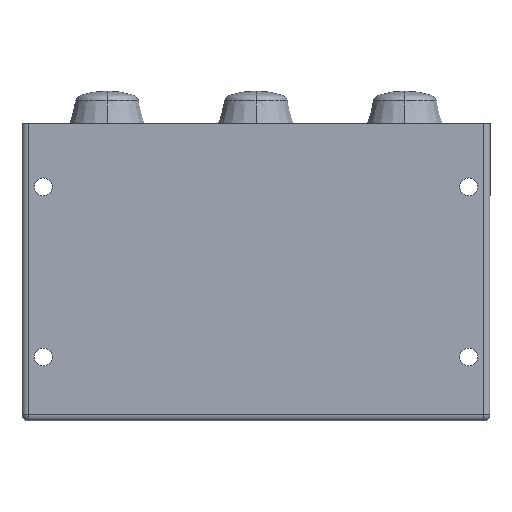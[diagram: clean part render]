
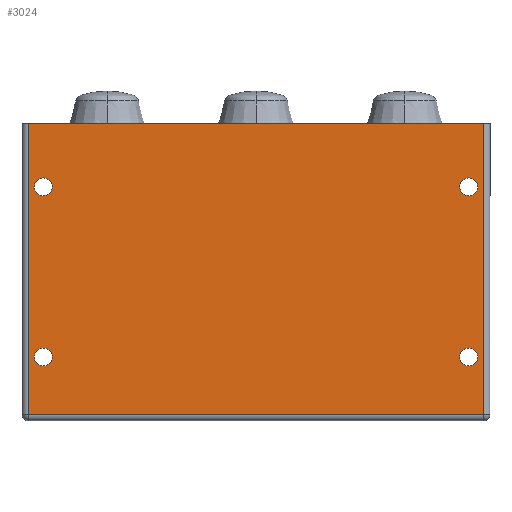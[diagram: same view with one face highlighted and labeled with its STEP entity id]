
A CAD part, front view. The second image highlights one B-rep face of the part: STEP entity #3024.
In plain terms, the highlighted planar face has unit normal (0, -1, 0).
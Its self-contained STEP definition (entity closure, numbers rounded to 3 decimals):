
#78 = EDGE_CURVE ( 'NONE', #910, #1433, #2929, .T. ) ;
#89 = CARTESIAN_POINT ( 'NONE',  ( -50., -15., -9.9 ) ) ;
#158 = FACE_BOUND ( 'NONE', #1120, .T. ) ;
#167 = EDGE_CURVE ( 'NONE', #1433, #910, #989, .T. ) ;
#174 = AXIS2_PLACEMENT_3D ( 'NONE', #3679, #1544, #4014 ) ;
#179 = VERTEX_POINT ( 'NONE', #2054 ) ;
#182 = AXIS2_PLACEMENT_3D ( 'NONE', #2502, #821, #805 ) ;
#260 = FACE_BOUND ( 'NONE', #4183, .T. ) ;
#341 = AXIS2_PLACEMENT_3D ( 'NONE', #3159, #1481, #839 ) ;
#427 = DIRECTION ( 'NONE',  ( 0., 1., 0. ) ) ;
#429 = EDGE_CURVE ( 'NONE', #598, #1924, #2055, .T. ) ;
#447 = CARTESIAN_POINT ( 'NONE',  ( 50., -15., -12. ) ) ;
#463 = EDGE_CURVE ( 'NONE', #179, #1077, #1462, .T. ) ;
#598 = VERTEX_POINT ( 'NONE', #2431 ) ;
#637 = CARTESIAN_POINT ( 'NONE',  ( -50., -15., -14.1 ) ) ;
#659 = ORIENTED_EDGE ( 'NONE', *, *, #2824, .T. ) ;
#677 = EDGE_CURVE ( 'NONE', #1924, #598, #3577, .T. ) ;
#686 = DIRECTION ( 'NONE',  ( 0., 1., 0. ) ) ;
#805 = DIRECTION ( 'NONE',  ( 0., 0., -1. ) ) ;
#821 = DIRECTION ( 'NONE',  ( 0., 1., 0. ) ) ;
#839 = DIRECTION ( 'NONE',  ( 0., 0., 1. ) ) ;
#861 = VERTEX_POINT ( 'NONE', #1067 ) ;
#885 = CIRCLE ( 'NONE', #2948, 2.1 ) ;
#910 = VERTEX_POINT ( 'NONE', #4246 ) ;
#920 = ORIENTED_EDGE ( 'NONE', *, *, #677, .T. ) ;
#942 = EDGE_CURVE ( 'NONE', #2161, #179, #1280, .T. ) ;
#989 = CIRCLE ( 'NONE', #3750, 2.1 ) ;
#1045 = FACE_BOUND ( 'NONE', #1410, .T. ) ;
#1067 = CARTESIAN_POINT ( 'NONE',  ( 50., -15., -14.1 ) ) ;
#1077 = VERTEX_POINT ( 'NONE', #3162 ) ;
#1082 = ORIENTED_EDGE ( 'NONE', *, *, #78, .T. ) ;
#1091 = CARTESIAN_POINT ( 'NONE',  ( 50., -15., -52. ) ) ;
#1120 = EDGE_LOOP ( 'NONE', ( #1082, #2789 ) ) ;
#1162 = EDGE_CURVE ( 'NONE', #2777, #861, #885, .T. ) ;
#1216 = DIRECTION ( 'NONE',  ( 0., 1., 0. ) ) ;
#1280 = LINE ( 'NONE', #3205, #3282 ) ;
#1330 = CIRCLE ( 'NONE', #1941, 2.1 ) ;
#1406 = CARTESIAN_POINT ( 'NONE',  ( 50., -15., -9.9 ) ) ;
#1410 = EDGE_LOOP ( 'NONE', ( #3375, #659 ) ) ;
#1433 = VERTEX_POINT ( 'NONE', #4071 ) ;
#1457 = DIRECTION ( 'NONE',  ( 0., 0., -1. ) ) ;
#1462 = LINE ( 'NONE', #3246, #1672 ) ;
#1481 = DIRECTION ( 'NONE',  ( 0., 1., 0. ) ) ;
#1490 = DIRECTION ( 'NONE',  ( 0., 0., -1. ) ) ;
#1537 = AXIS2_PLACEMENT_3D ( 'NONE', #1091, #686, #3149 ) ;
#1544 = DIRECTION ( 'NONE',  ( 0., 1., 0. ) ) ;
#1561 = EDGE_CURVE ( 'NONE', #2726, #1930, #2295, .T. ) ;
#1666 = EDGE_CURVE ( 'NONE', #861, #2777, #3198, .T. ) ;
#1672 = VECTOR ( 'NONE', #2865, 1000. ) ;
#1749 = EDGE_CURVE ( 'NONE', #2161, #2505, #4162, .T. ) ;
#1821 = CARTESIAN_POINT ( 'NONE',  ( -50., -15., -52. ) ) ;
#1924 = VERTEX_POINT ( 'NONE', #4258 ) ;
#1930 = VERTEX_POINT ( 'NONE', #89 ) ;
#1941 = AXIS2_PLACEMENT_3D ( 'NONE', #2494, #427, #2873 ) ;
#2013 = CARTESIAN_POINT ( 'NONE',  ( -50., -15., -52. ) ) ;
#2043 = ORIENTED_EDGE ( 'NONE', *, *, #463, .T. ) ;
#2050 = ORIENTED_EDGE ( 'NONE', *, *, #2858, .T. ) ;
#2054 = CARTESIAN_POINT ( 'NONE',  ( -53.5, -15., -65.5 ) ) ;
#2055 = CIRCLE ( 'NONE', #341, 2.1 ) ;
#2068 = FACE_BOUND ( 'NONE', #3026, .T. ) ;
#2161 = VERTEX_POINT ( 'NONE', #2464 ) ;
#2181 = ORIENTED_EDGE ( 'NONE', *, *, #942, .T. ) ;
#2200 = CARTESIAN_POINT ( 'NONE',  ( 53.5, -15., 3. ) ) ;
#2295 = CIRCLE ( 'NONE', #3133, 2.1 ) ;
#2311 = VECTOR ( 'NONE', #4456, 1000. ) ;
#2431 = CARTESIAN_POINT ( 'NONE',  ( 50., -15., -54.1 ) ) ;
#2464 = CARTESIAN_POINT ( 'NONE',  ( -53.5, -15., 3. ) ) ;
#2494 = CARTESIAN_POINT ( 'NONE',  ( -50., -15., -12. ) ) ;
#2502 = CARTESIAN_POINT ( 'NONE',  ( 50., -15., -12. ) ) ;
#2505 = VERTEX_POINT ( 'NONE', #2200 ) ;
#2625 = ORIENTED_EDGE ( 'NONE', *, *, #1666, .T. ) ;
#2673 = EDGE_LOOP ( 'NONE', ( #2043, #2050, #3595, #2181 ) ) ;
#2715 = AXIS2_PLACEMENT_3D ( 'NONE', #1821, #4374, #1457 ) ;
#2726 = VERTEX_POINT ( 'NONE', #637 ) ;
#2777 = VERTEX_POINT ( 'NONE', #1406 ) ;
#2789 = ORIENTED_EDGE ( 'NONE', *, *, #167, .T. ) ;
#2824 = EDGE_CURVE ( 'NONE', #1930, #2726, #1330, .T. ) ;
#2858 = EDGE_CURVE ( 'NONE', #1077, #2505, #3542, .T. ) ;
#2865 = DIRECTION ( 'NONE',  ( 1., 0., 0. ) ) ;
#2873 = DIRECTION ( 'NONE',  ( 0., 0., 1. ) ) ;
#2907 = DIRECTION ( 'NONE',  ( 0., 1., 0. ) ) ;
#2929 = CIRCLE ( 'NONE', #2715, 2.1 ) ;
#2948 = AXIS2_PLACEMENT_3D ( 'NONE', #447, #2907, #1490 ) ;
#3024 = ADVANCED_FACE ( 'NONE', ( #2068, #158, #1045, #260, #3736 ), #4362, .F. ) ;
#3026 = EDGE_LOOP ( 'NONE', ( #4225, #920 ) ) ;
#3133 = AXIS2_PLACEMENT_3D ( 'NONE', #3996, #1216, #3654 ) ;
#3149 = DIRECTION ( 'NONE',  ( 0., 0., 1. ) ) ;
#3159 = CARTESIAN_POINT ( 'NONE',  ( 50., -15., -52. ) ) ;
#3162 = CARTESIAN_POINT ( 'NONE',  ( 53.5, -15., -65.5 ) ) ;
#3198 = CIRCLE ( 'NONE', #182, 2.1 ) ;
#3205 = CARTESIAN_POINT ( 'NONE',  ( -53.5, -15., -32. ) ) ;
#3246 = CARTESIAN_POINT ( 'NONE',  ( 0., -15., -65.5 ) ) ;
#3282 = VECTOR ( 'NONE', #4269, 1000. ) ;
#3375 = ORIENTED_EDGE ( 'NONE', *, *, #1561, .T. ) ;
#3542 = LINE ( 'NONE', #4297, #4367 ) ;
#3577 = CIRCLE ( 'NONE', #1537, 2.1 ) ;
#3593 = DIRECTION ( 'NONE',  ( 0., 0., 1. ) ) ;
#3595 = ORIENTED_EDGE ( 'NONE', *, *, #1749, .F. ) ;
#3654 = DIRECTION ( 'NONE',  ( 0., 0., 1. ) ) ;
#3679 = CARTESIAN_POINT ( 'NONE',  ( 0., -15., -32. ) ) ;
#3736 = FACE_OUTER_BOUND ( 'NONE', #2673, .T. ) ;
#3750 = AXIS2_PLACEMENT_3D ( 'NONE', #2013, #4117, #3789 ) ;
#3753 = ORIENTED_EDGE ( 'NONE', *, *, #1162, .T. ) ;
#3789 = DIRECTION ( 'NONE',  ( 0., 0., -1. ) ) ;
#3996 = CARTESIAN_POINT ( 'NONE',  ( -50., -15., -12. ) ) ;
#4014 = DIRECTION ( 'NONE',  ( 0., 0., -1. ) ) ;
#4071 = CARTESIAN_POINT ( 'NONE',  ( -50., -15., -49.9 ) ) ;
#4117 = DIRECTION ( 'NONE',  ( 0., 1., 0. ) ) ;
#4162 = LINE ( 'NONE', #4301, #2311 ) ;
#4183 = EDGE_LOOP ( 'NONE', ( #2625, #3753 ) ) ;
#4225 = ORIENTED_EDGE ( 'NONE', *, *, #429, .T. ) ;
#4246 = CARTESIAN_POINT ( 'NONE',  ( -50., -15., -54.1 ) ) ;
#4258 = CARTESIAN_POINT ( 'NONE',  ( 50., -15., -49.9 ) ) ;
#4269 = DIRECTION ( 'NONE',  ( 0., 0., -1. ) ) ;
#4297 = CARTESIAN_POINT ( 'NONE',  ( 53.5, -15., -32. ) ) ;
#4301 = CARTESIAN_POINT ( 'NONE',  ( 55., -15., 3. ) ) ;
#4362 = PLANE ( 'NONE',  #174 ) ;
#4367 = VECTOR ( 'NONE', #3593, 1000. ) ;
#4374 = DIRECTION ( 'NONE',  ( 0., 1., 0. ) ) ;
#4456 = DIRECTION ( 'NONE',  ( 1., 0., 0. ) ) ;
